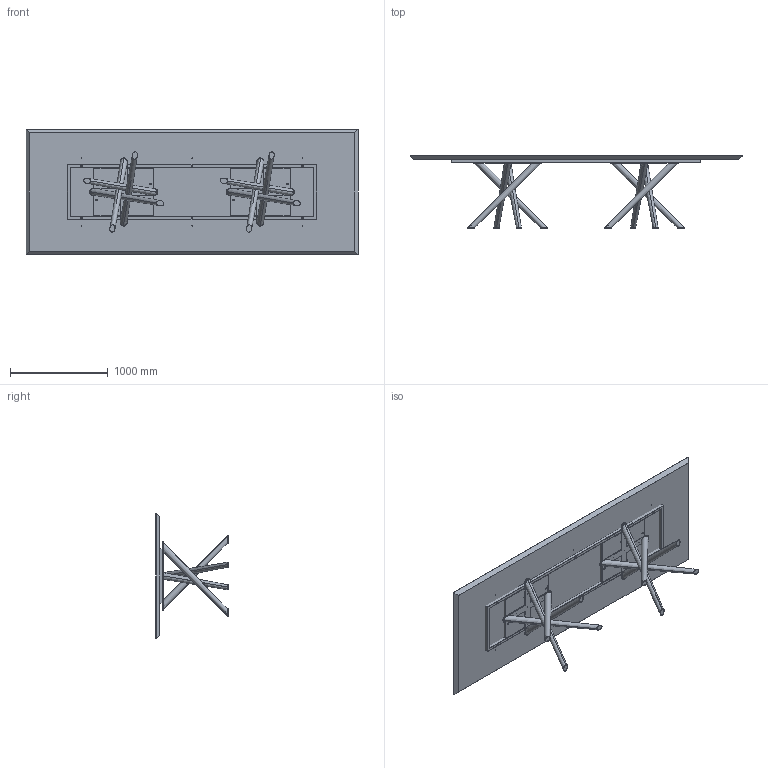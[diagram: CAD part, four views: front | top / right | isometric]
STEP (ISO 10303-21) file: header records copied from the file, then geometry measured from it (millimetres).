
FILE_DESCRIPTION (( 'STEP AP203' ), '1' );
FILE_NAME ('BA26W.STEP', '2024-08-08T05:56:01', ( '' ), ( '' ), 'SwSTEP 2.0', 'SolidWorks 2022', '' );
FILE_SCHEMA (( 'CONFIG_CONTROL_DESIGN' ));
Length unit declared in the file: millimetre
Products named in the file (9): TTAV03_01-06-RING TUBO TELAIO UNIVERSALE X TAVOLI 300-340cm; TTAV03-06-TELAIO UNIVERSALE X TAVOLI 300-340cm; BAB000000-00-BALY BASE GREZZA; BAB000000_02-00-basamento pali conificati; TTAV03_02-06-VASSOIO IRRIGIDIMENTO TELAIO UNIVERSALE RETTANGOLARE; Parte5^BAB000000-00-BALY BASE GREZZA; BA26W; BAB000000_01-00-Croce Superiore baly; W2XCMXX-00-Piani Rettangolari in legno_3400 x 1280
Assembly tree (10 placements, depth 3):
  BA26W
    W2XCMXX-00-Piani Rettangolari in legno_3400 x 1280
    TTAV03-06-TELAIO UNIVERSALE X TAVOLI 300-340cm
      TTAV03_01-06-RING TUBO TELAIO UNIVERSALE X TAVOLI 300-340cm
      TTAV03_02-06-VASSOIO IRRIGIDIMENTO TELAIO UNIVERSALE RETTANGOLARE  x2
    BAB000000-00-BALY BASE GREZZA  x2
      BAB000000_01-00-Croce Superiore baly
      BAB000000_02-00-basamento pali conificati
      Parte5^BAB000000-00-BALY BASE GREZZA
Bounding box: 3400 x 743 x 1280 mm (x, y, z)
Volume: 169046939.5 mm3; surface area: 15261665.9 mm2
Topology: 22 solids, 22 shells, 616 faces, 1514 edges, 924 vertices
Faces by surface type: plane 278, cylinder 226, cone 88, bspline 16, sphere 8
Entity records: 14124 total; most frequent: CARTESIAN_POINT 3723, DIRECTION 1971, ORIENTED_EDGE 1914, EDGE_CURVE 957, AXIS2_PLACEMENT_3D 694, VERTEX_POINT 598, LINE 583, VECTOR 583
